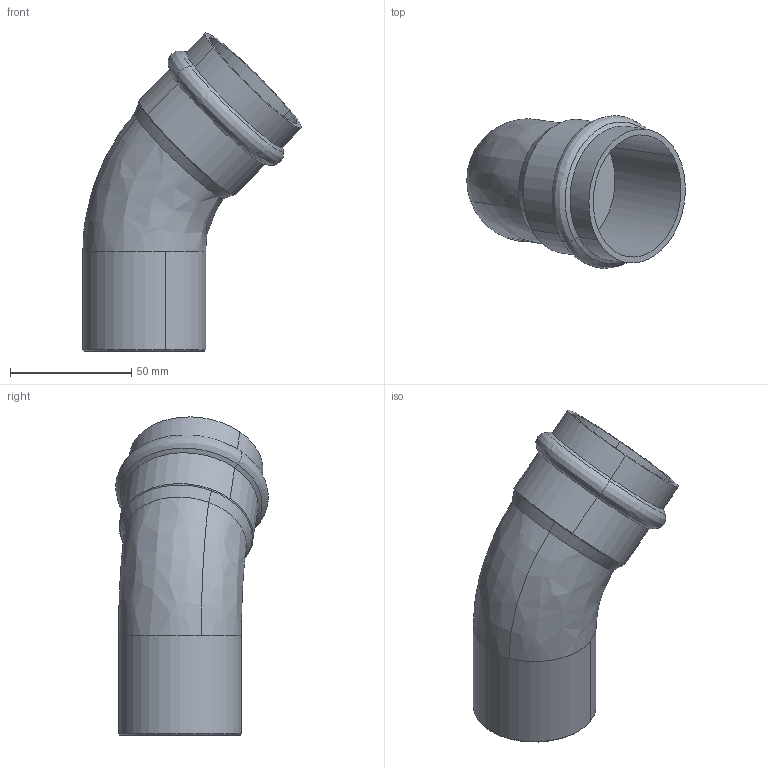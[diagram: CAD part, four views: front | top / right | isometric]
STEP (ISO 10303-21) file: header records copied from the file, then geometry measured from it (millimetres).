
FILE_DESCRIPTION(('STEP AP214'),'1');
FILE_NAME('pim0004555.stp','2015-04-30T15:34:19',('Cad-Pim'),('TransMagic, Inc.'),'TMR11sp0','TransMagic R11',' ');
FILE_SCHEMA(('AUTOMOTIVE_DESIGN'));
Length unit declared in the file: millimetre
Products named in the file (1): pim0004555
Bounding box: 90.19 x 62.94 x 131.38 mm (x, y, z)
Volume: 201734.3 mm3; surface area: 32566.7 mm2
Topology: 1 solids, 1 shells, 25 faces, 66 edges, 44 vertices
Faces by surface type: bspline 9, cylinder 8, cone 8
Entity records: 1304 total; most frequent: CARTESIAN_POINT 536, ORIENTED_EDGE 132, DIRECTION 98, EDGE_CURVE 66, VERTEX_POINT 44, AXIS2_PLACEMENT_3D 40, STYLED_ITEM 26, PRESENTATION_STYLE_ASSIGNMENT 26
